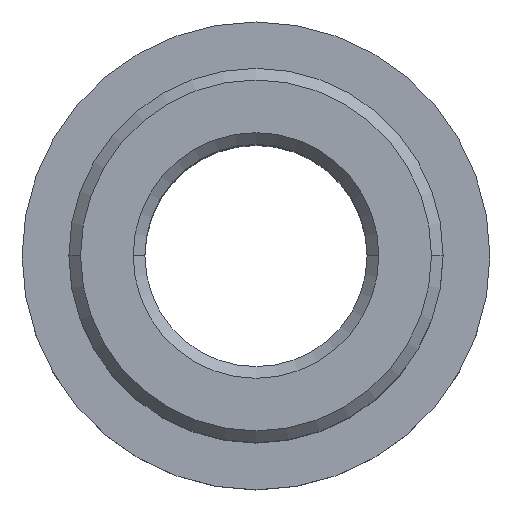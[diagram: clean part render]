
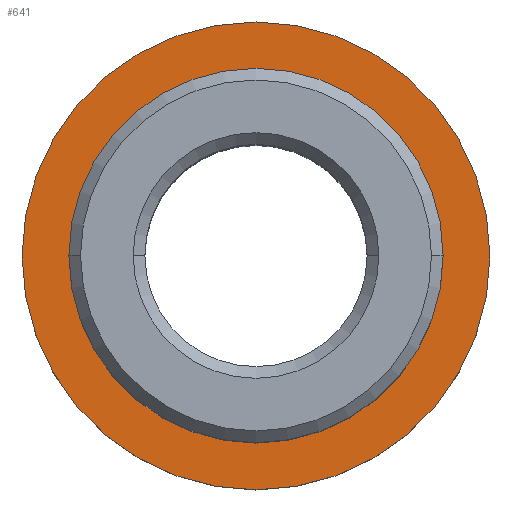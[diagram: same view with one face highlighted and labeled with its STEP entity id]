
A CAD part, top view. The second image highlights one B-rep face of the part: STEP entity #641.
In plain terms, the highlighted planar face has unit normal (0, 0, 1).
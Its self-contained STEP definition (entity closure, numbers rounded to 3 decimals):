
#15 = DIRECTION ( 'NONE',  ( 0., 0., 1. ) ) ;
#20 = CARTESIAN_POINT ( 'NONE',  ( 0., 0., -23. ) ) ;
#24 = CARTESIAN_POINT ( 'NONE',  ( 0., 0., -23. ) ) ;
#46 = DIRECTION ( 'NONE',  ( 1., 0., 0. ) ) ;
#53 = VERTEX_POINT ( 'NONE', #412 ) ;
#64 = ORIENTED_EDGE ( 'NONE', *, *, #893, .T. ) ;
#87 = ORIENTED_EDGE ( 'NONE', *, *, #93, .F. ) ;
#93 = EDGE_CURVE ( 'NONE', #501, #921, #1049, .T. ) ;
#110 = DIRECTION ( 'NONE',  ( 1., 0., 0. ) ) ;
#127 = PLANE ( 'NONE',  #506 ) ;
#148 = DIRECTION ( 'NONE',  ( 0., 0., 1. ) ) ;
#192 = EDGE_LOOP ( 'NONE', ( #423, #64 ) ) ;
#197 = AXIS2_PLACEMENT_3D ( 'NONE', #806, #148, #727 ) ;
#200 = CARTESIAN_POINT ( 'NONE',  ( 0., 0., -23. ) ) ;
#246 = ORIENTED_EDGE ( 'NONE', *, *, #956, .F. ) ;
#284 = AXIS2_PLACEMENT_3D ( 'NONE', #471, #916, #994 ) ;
#320 = CARTESIAN_POINT ( 'NONE',  ( -16., 0., -23. ) ) ;
#378 = AXIS2_PLACEMENT_3D ( 'NONE', #20, #595, #110 ) ;
#379 = CIRCLE ( 'NONE', #197, 20. ) ;
#412 = CARTESIAN_POINT ( 'NONE',  ( 20., 0., -23. ) ) ;
#423 = ORIENTED_EDGE ( 'NONE', *, *, #508, .T. ) ;
#471 = CARTESIAN_POINT ( 'NONE',  ( 0., 0., -23. ) ) ;
#501 = VERTEX_POINT ( 'NONE', #675 ) ;
#506 = AXIS2_PLACEMENT_3D ( 'NONE', #200, #699, #46 ) ;
#508 = EDGE_CURVE ( 'NONE', #53, #599, #379, .T. ) ;
#532 = CIRCLE ( 'NONE', #284, 20. ) ;
#551 = FACE_OUTER_BOUND ( 'NONE', #192, .T. ) ;
#576 = FACE_BOUND ( 'NONE', #754, .T. ) ;
#595 = DIRECTION ( 'NONE',  ( 0., 0., 1. ) ) ;
#599 = VERTEX_POINT ( 'NONE', #1047 ) ;
#641 = ADVANCED_FACE ( 'NONE', ( #551, #576 ), #127, .T. ) ;
#675 = CARTESIAN_POINT ( 'NONE',  ( 16., 0., -23. ) ) ;
#699 = DIRECTION ( 'NONE',  ( 0., 0., 1. ) ) ;
#727 = DIRECTION ( 'NONE',  ( 1., 0., 0. ) ) ;
#752 = CIRCLE ( 'NONE', #796, 16. ) ;
#754 = EDGE_LOOP ( 'NONE', ( #87, #246 ) ) ;
#796 = AXIS2_PLACEMENT_3D ( 'NONE', #24, #15, #928 ) ;
#806 = CARTESIAN_POINT ( 'NONE',  ( 0., 0., -23. ) ) ;
#893 = EDGE_CURVE ( 'NONE', #599, #53, #532, .T. ) ;
#916 = DIRECTION ( 'NONE',  ( 0., 0., 1. ) ) ;
#921 = VERTEX_POINT ( 'NONE', #320 ) ;
#928 = DIRECTION ( 'NONE',  ( 1., 0., 0. ) ) ;
#956 = EDGE_CURVE ( 'NONE', #921, #501, #752, .T. ) ;
#994 = DIRECTION ( 'NONE',  ( 1., 0., 0. ) ) ;
#1047 = CARTESIAN_POINT ( 'NONE',  ( -20., 0., -23. ) ) ;
#1049 = CIRCLE ( 'NONE', #378, 16. ) ;
